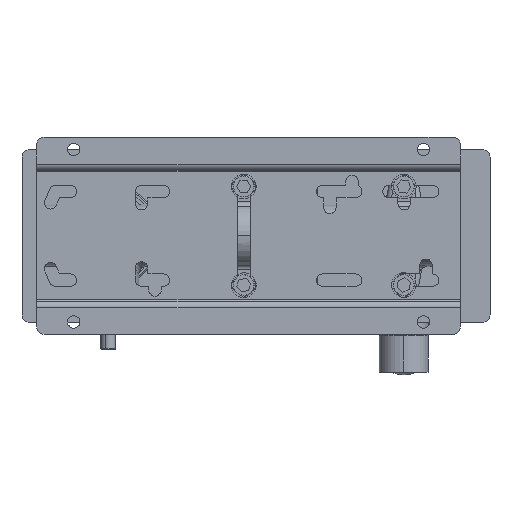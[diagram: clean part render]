
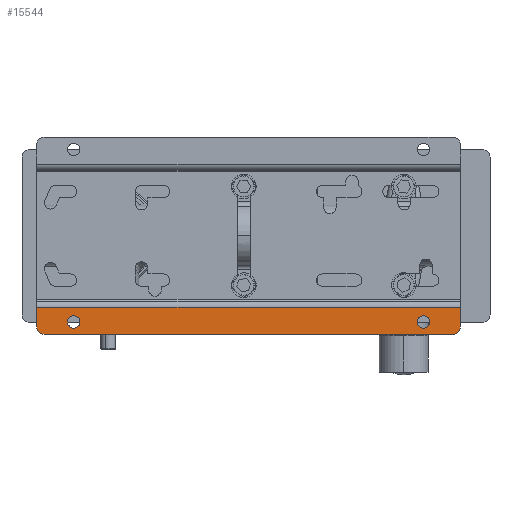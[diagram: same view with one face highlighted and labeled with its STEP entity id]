
A CAD part, top view. The second image highlights one B-rep face of the part: STEP entity #15544.
In plain terms, the highlighted planar face has unit normal (0, 0, 1) as drawn and (0, -1, 0) by its records, which use the part's own axes.
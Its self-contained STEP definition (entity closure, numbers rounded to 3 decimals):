
#329 = DIRECTION ( 'NONE',  ( 0., -1., 0. ) ) ;
#977 = AXIS2_PLACEMENT_3D ( 'NONE', #35616, #21363, #32971 ) ;
#1143 = ORIENTED_EDGE ( 'NONE', *, *, #31832, .F. ) ;
#1809 = CIRCLE ( 'NONE', #36413, 3. ) ;
#2157 = CARTESIAN_POINT ( 'NONE',  ( 0., -11., 60. ) ) ;
#2809 = FACE_BOUND ( 'NONE', #36416, .T. ) ;
#3620 = VERTEX_POINT ( 'NONE', #20962 ) ;
#4463 = CARTESIAN_POINT ( 'NONE',  ( 15., -11., 66. ) ) ;
#5519 = CARTESIAN_POINT ( 'NONE',  ( 169., -11., 71. ) ) ;
#6314 = CIRCLE ( 'NONE', #29362, 2.5 ) ;
#7023 = ORIENTED_EDGE ( 'NONE', *, *, #19470, .T. ) ;
#7046 = EDGE_CURVE ( 'NONE', #22984, #19312, #19135, .T. ) ;
#7079 = ORIENTED_EDGE ( 'NONE', *, *, #30480, .T. ) ;
#7523 = EDGE_LOOP ( 'NONE', ( #31778, #12955 ) ) ;
#7605 = EDGE_CURVE ( 'NONE', #26366, #25347, #22624, .T. ) ;
#7819 = CARTESIAN_POINT ( 'NONE',  ( 157., -11., 68.5 ) ) ;
#8191 = DIRECTION ( 'NONE',  ( 1., 0., 0. ) ) ;
#8233 = LINE ( 'NONE', #2157, #19834 ) ;
#8612 = DIRECTION ( 'NONE',  ( 0., 0., -1. ) ) ;
#8887 = DIRECTION ( 'NONE',  ( 0., 0., -1. ) ) ;
#8949 = ORIENTED_EDGE ( 'NONE', *, *, #7046, .F. ) ;
#10322 = EDGE_CURVE ( 'NONE', #28110, #36951, #6314, .T. ) ;
#10514 = EDGE_CURVE ( 'NONE', #22333, #28976, #19058, .T. ) ;
#11240 = DIRECTION ( 'NONE',  ( 0., -1., 0. ) ) ;
#11447 = DIRECTION ( 'NONE',  ( 0., -1., 0. ) ) ;
#11706 = CARTESIAN_POINT ( 'NONE',  ( 157., -11., 66. ) ) ;
#11887 = CARTESIAN_POINT ( 'NONE',  ( 0., -11., 60. ) ) ;
#12276 = DIRECTION ( 'NONE',  ( 0., 0., -1. ) ) ;
#12505 = CIRCLE ( 'NONE', #977, 2.5 ) ;
#12713 = CIRCLE ( 'NONE', #23007, 3. ) ;
#12955 = ORIENTED_EDGE ( 'NONE', *, *, #17411, .F. ) ;
#13344 = EDGE_CURVE ( 'NONE', #26366, #19312, #12713, .T. ) ;
#13401 = CARTESIAN_POINT ( 'NONE',  ( 15., -11., 66. ) ) ;
#14133 = DIRECTION ( 'NONE',  ( 1., 0., 0. ) ) ;
#15544 = ADVANCED_FACE ( 'NONE', ( #2809, #34570, #28830 ), #22939, .T. ) ;
#15671 = DIRECTION ( 'NONE',  ( 0., -1., 0. ) ) ;
#16747 = CARTESIAN_POINT ( 'NONE',  ( 169., -11., 68. ) ) ;
#17331 = VECTOR ( 'NONE', #36061, 1000. ) ;
#17411 = EDGE_CURVE ( 'NONE', #28976, #22333, #23004, .T. ) ;
#17685 = ORIENTED_EDGE ( 'NONE', *, *, #32228, .F. ) ;
#18555 = DIRECTION ( 'NONE',  ( 0., 0., 1. ) ) ;
#18700 = DIRECTION ( 'NONE',  ( 0., 0., -1. ) ) ;
#19058 = CIRCLE ( 'NONE', #26313, 2.5 ) ;
#19135 = LINE ( 'NONE', #30738, #31642 ) ;
#19312 = VERTEX_POINT ( 'NONE', #29739 ) ;
#19470 = EDGE_CURVE ( 'NONE', #22984, #23550, #8233, .T. ) ;
#19834 = VECTOR ( 'NONE', #14133, 1000. ) ;
#20585 = CARTESIAN_POINT ( 'NONE',  ( 15., -11., 68.5 ) ) ;
#20962 = CARTESIAN_POINT ( 'NONE',  ( 172., -11., 68. ) ) ;
#21193 = DIRECTION ( 'NONE',  ( 0., -1., 0. ) ) ;
#21224 = CARTESIAN_POINT ( 'NONE',  ( 172., -11., 59. ) ) ;
#21363 = DIRECTION ( 'NONE',  ( 0., -1., 0. ) ) ;
#21678 = EDGE_LOOP ( 'NONE', ( #29546, #24807, #8949, #7023, #1143, #7079 ) ) ;
#22333 = VERTEX_POINT ( 'NONE', #20585 ) ;
#22624 = LINE ( 'NONE', #28321, #29266 ) ;
#22939 = PLANE ( 'NONE',  #33922 ) ;
#22984 = VERTEX_POINT ( 'NONE', #11887 ) ;
#23004 = CIRCLE ( 'NONE', #31520, 2.5 ) ;
#23007 = AXIS2_PLACEMENT_3D ( 'NONE', #34457, #11447, #8612 ) ;
#23550 = VERTEX_POINT ( 'NONE', #37306 ) ;
#24025 = CARTESIAN_POINT ( 'NONE',  ( 157., -11., 63.5 ) ) ;
#24405 = DIRECTION ( 'NONE',  ( 0., 0., -1. ) ) ;
#24807 = ORIENTED_EDGE ( 'NONE', *, *, #13344, .T. ) ;
#25347 = VERTEX_POINT ( 'NONE', #5519 ) ;
#25503 = DIRECTION ( 'NONE',  ( 0., 0., -1. ) ) ;
#26313 = AXIS2_PLACEMENT_3D ( 'NONE', #13401, #15671, #24405 ) ;
#26366 = VERTEX_POINT ( 'NONE', #37432 ) ;
#28110 = VERTEX_POINT ( 'NONE', #7819 ) ;
#28321 = CARTESIAN_POINT ( 'NONE',  ( 172., -11., 71. ) ) ;
#28830 = FACE_OUTER_BOUND ( 'NONE', #21678, .T. ) ;
#28976 = VERTEX_POINT ( 'NONE', #35015 ) ;
#29266 = VECTOR ( 'NONE', #8191, 1000. ) ;
#29362 = AXIS2_PLACEMENT_3D ( 'NONE', #11706, #21193, #12276 ) ;
#29546 = ORIENTED_EDGE ( 'NONE', *, *, #7605, .F. ) ;
#29739 = CARTESIAN_POINT ( 'NONE',  ( 0., -11., 68. ) ) ;
#30480 = EDGE_CURVE ( 'NONE', #3620, #25347, #1809, .T. ) ;
#30738 = CARTESIAN_POINT ( 'NONE',  ( 0., -11., 71. ) ) ;
#31520 = AXIS2_PLACEMENT_3D ( 'NONE', #4463, #36206, #18700 ) ;
#31580 = ORIENTED_EDGE ( 'NONE', *, *, #10322, .F. ) ;
#31642 = VECTOR ( 'NONE', #18555, 1000. ) ;
#31778 = ORIENTED_EDGE ( 'NONE', *, *, #10514, .F. ) ;
#31832 = EDGE_CURVE ( 'NONE', #3620, #23550, #36442, .T. ) ;
#32228 = EDGE_CURVE ( 'NONE', #36951, #28110, #12505, .T. ) ;
#32971 = DIRECTION ( 'NONE',  ( 0., 0., -1. ) ) ;
#33922 = AXIS2_PLACEMENT_3D ( 'NONE', #37602, #329, #8887 ) ;
#34457 = CARTESIAN_POINT ( 'NONE',  ( 3., -11., 68. ) ) ;
#34570 = FACE_BOUND ( 'NONE', #7523, .T. ) ;
#35015 = CARTESIAN_POINT ( 'NONE',  ( 15., -11., 63.5 ) ) ;
#35616 = CARTESIAN_POINT ( 'NONE',  ( 157., -11., 66. ) ) ;
#36061 = DIRECTION ( 'NONE',  ( 0., 0., -1. ) ) ;
#36206 = DIRECTION ( 'NONE',  ( 0., -1., 0. ) ) ;
#36413 = AXIS2_PLACEMENT_3D ( 'NONE', #16747, #11240, #25503 ) ;
#36416 = EDGE_LOOP ( 'NONE', ( #31580, #17685 ) ) ;
#36442 = LINE ( 'NONE', #21224, #17331 ) ;
#36951 = VERTEX_POINT ( 'NONE', #24025 ) ;
#37306 = CARTESIAN_POINT ( 'NONE',  ( 172., -11., 60. ) ) ;
#37432 = CARTESIAN_POINT ( 'NONE',  ( 3., -11., 71. ) ) ;
#37602 = CARTESIAN_POINT ( 'NONE',  ( 0., -11., 0. ) ) ;
